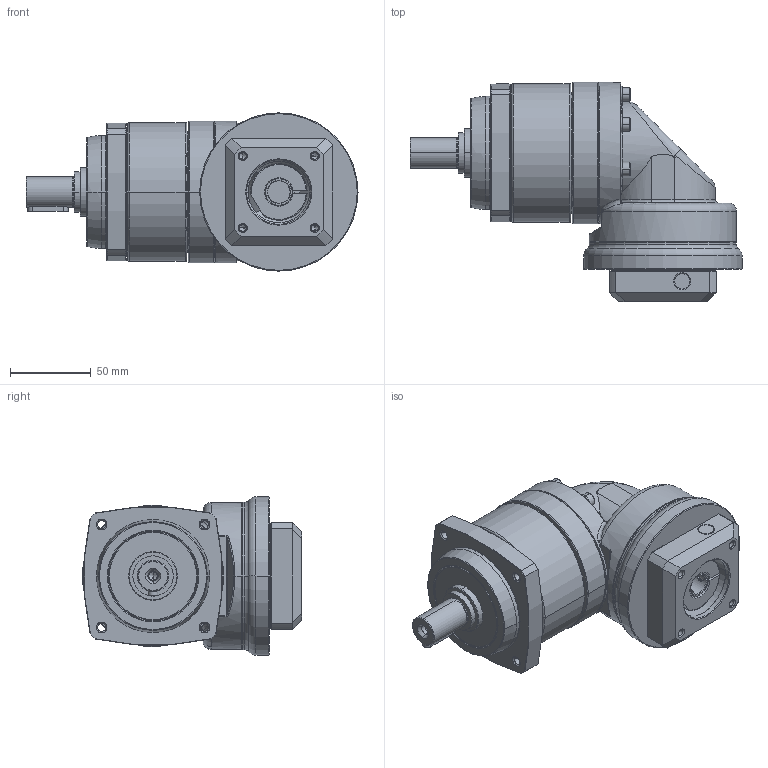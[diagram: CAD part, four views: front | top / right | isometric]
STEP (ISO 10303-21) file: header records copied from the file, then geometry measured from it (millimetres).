
FILE_DESCRIPTION((''),'2;1');
FILE_NAME('PS2R-C_1ST_14-P0411300101_ASM','2016-05-27T',('d01943'),(''),'PRO/ENGINEER BY PARAMETRIC TECHNOLOGY CORPORATION, 2008410','PRO/ENGINEER BY PARAMETRIC TECHNOLOGY CORPORATION, 2008410','');
FILE_SCHEMA(('CONFIG_CONTROL_DESIGN'));
Length unit declared in the file: millimetre
Products named in the file (12): P1328310001; P0250300001; P0350301401; P1349300001; P1017300001; P0713300001; P0503300005; P1350300001; P0411300101; P1702300001; 2111BA05025; PS2R-C_1ST_14-P0411300101_ASM
Assembly tree (16 placements, depth 2):
  PS2R-C_1ST_14-P0411300101_ASM
    P1328310001
    P0250300001
    P0350301401
    P1349300001
    P1017300001
    P0713300001
    P0503300005
    P1350300001
    P0411300101
    P1702300001
    2111BA05025  x6
Bounding box: 205.5 x 135.75 x 98 mm (x, y, z)
Volume: 662494.6 mm3; surface area: 176933.6 mm2
Topology: 16 solids, 16 shells, 805 faces, 1778 edges, 1032 vertices
Faces by surface type: cylinder 254, cone 238, plane 189, torus 90, bspline 34
Entity records: 23476 total; most frequent: CARTESIAN_POINT 8990, DIRECTION 3212, ORIENTED_EDGE 2804, EDGE_CURVE 1402, AXIS2_PLACEMENT_3D 1358, VERTEX_POINT 832, EDGE_LOOP 734, CIRCLE 724
